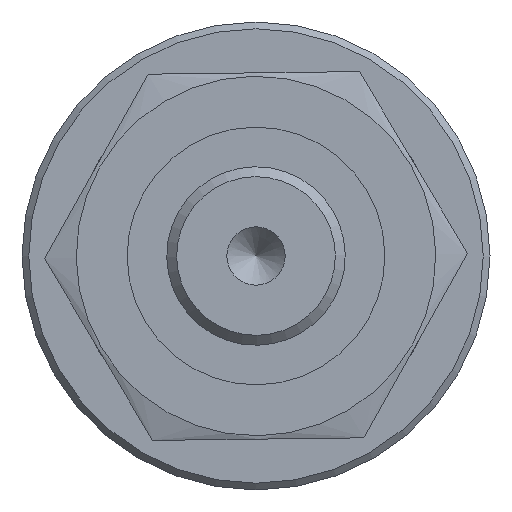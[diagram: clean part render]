
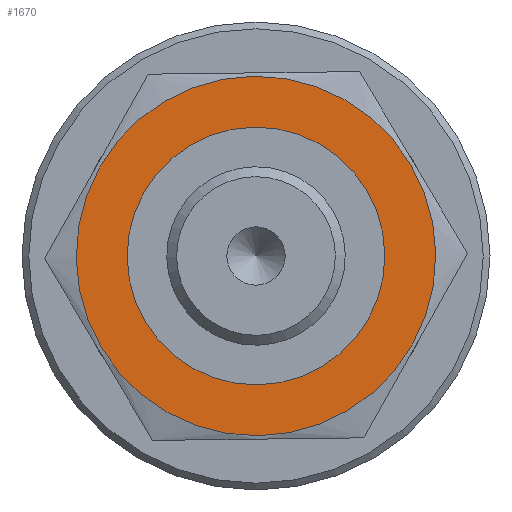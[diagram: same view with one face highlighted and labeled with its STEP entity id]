
A CAD part, left-side view. The second image highlights one B-rep face of the part: STEP entity #1670.
In plain terms, the highlighted planar face has unit normal (-1, 0, 0).
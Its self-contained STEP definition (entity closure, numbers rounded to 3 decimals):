
#264=FACE_BOUND('',#468,.T.);
#345=FACE_OUTER_BOUND('',#467,.T.);
#467=EDGE_LOOP('',(#1366));
#468=EDGE_LOOP('',(#1367));
#605=CIRCLE('',#1898,13.25);
#606=CIRCLE('',#1900,9.5);
#751=VERTEX_POINT('',#3288);
#755=VERTEX_POINT('',#3307);
#961=EDGE_CURVE('',#751,#751,#605,.T.);
#966=EDGE_CURVE('',#755,#755,#606,.T.);
#1366=ORIENTED_EDGE('',*,*,#961,.F.);
#1367=ORIENTED_EDGE('',*,*,#966,.T.);
#1482=PLANE('',#1899);
#1670=ADVANCED_FACE('',(#345,#264),#1482,.T.);
#1898=AXIS2_PLACEMENT_3D('',#3290,#2357,#2358);
#1899=AXIS2_PLACEMENT_3D('',#3306,#2359,#2360);
#1900=AXIS2_PLACEMENT_3D('',#3308,#2361,#2362);
#2357=DIRECTION('center_axis',(1.,0.,0.));
#2358=DIRECTION('ref_axis',(0.,1.,-0.012));
#2359=DIRECTION('center_axis',(-1.,0.,0.));
#2360=DIRECTION('ref_axis',(0.,0.012,1.));
#2361=DIRECTION('center_axis',(1.,0.,0.));
#2362=DIRECTION('ref_axis',(0.,1.,-0.012));
#3288=CARTESIAN_POINT('',(-86.496,55.589,-19.13));
#3290=CARTESIAN_POINT('Origin',(-86.496,68.838,-19.29));
#3306=CARTESIAN_POINT('Origin',(-86.496,80.213,-19.428));
#3307=CARTESIAN_POINT('',(-86.496,59.339,-19.175));
#3308=CARTESIAN_POINT('Origin',(-86.496,68.838,-19.29));
